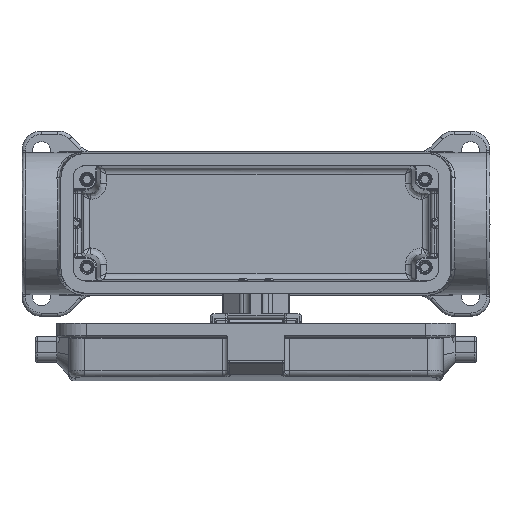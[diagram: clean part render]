
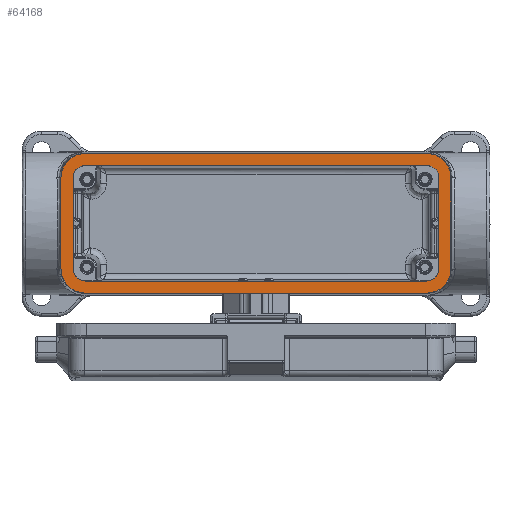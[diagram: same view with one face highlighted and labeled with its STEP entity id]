
A CAD part, top view. The second image highlights one B-rep face of the part: STEP entity #64168.
In plain terms, the highlighted planar face has unit normal (0, 0, 1) as drawn and (0, -1, 0) by its records, which use the part's own axes.
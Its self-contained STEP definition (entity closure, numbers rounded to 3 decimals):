
#183 = EDGE_CURVE ( 'NONE', #156512, #148041, #95126, .T. ) ;
#202 = DIRECTION ( 'NONE',  ( 1., 0., 0. ) ) ;
#906 = EDGE_CURVE ( 'NONE', #75258, #44165, #40749, .T. ) ;
#1974 = CIRCLE ( 'NONE', #88798, 3.8 ) ;
#2218 = EDGE_CURVE ( 'NONE', #120295, #131625, #54247, .T. ) ;
#4457 = CARTESIAN_POINT ( 'NONE',  ( 0., 0., 56.3 ) ) ;
#8426 = VERTEX_POINT ( 'NONE', #129763 ) ;
#8703 = CARTESIAN_POINT ( 'NONE',  ( -21.5, 0., -52.5 ) ) ;
#10973 = EDGE_CURVE ( 'NONE', #125377, #110784, #156448, .T. ) ;
#12017 = VECTOR ( 'NONE', #119150, 1000. ) ;
#13729 = CARTESIAN_POINT ( 'NONE',  ( 0., 0., 60. ) ) ;
#14308 = EDGE_CURVE ( 'NONE', #30638, #75258, #90349, .T. ) ;
#14633 = EDGE_CURVE ( 'NONE', #19278, #134264, #101817, .T. ) ;
#18103 = ORIENTED_EDGE ( 'NONE', *, *, #160325, .F. ) ;
#18369 = DIRECTION ( 'NONE',  ( 0., 1., 0. ) ) ;
#18784 = DIRECTION ( 'NONE',  ( 0., 0., -1. ) ) ;
#18934 = DIRECTION ( 'NONE',  ( -1., 0., 0. ) ) ;
#19278 = VERTEX_POINT ( 'NONE', #137281 ) ;
#21632 = FACE_OUTER_BOUND ( 'NONE', #132312, .T. ) ;
#21664 = CARTESIAN_POINT ( 'NONE',  ( -14., 0., 52.5 ) ) ;
#24899 = CARTESIAN_POINT ( 'NONE',  ( -14., 0., 52.5 ) ) ;
#25976 = DIRECTION ( 'NONE',  ( 0., 0., 1. ) ) ;
#27218 = EDGE_CURVE ( 'NONE', #134264, #8426, #33335, .T. ) ;
#29223 = DIRECTION ( 'NONE',  ( 0., -1., 0. ) ) ;
#30124 = CARTESIAN_POINT ( 'NONE',  ( -17.8, 0., 52.5 ) ) ;
#30290 = DIRECTION ( 'NONE',  ( 0., 1., 0. ) ) ;
#30638 = VERTEX_POINT ( 'NONE', #38322 ) ;
#31244 = DIRECTION ( 'NONE',  ( 0., 1., 0. ) ) ;
#32709 = EDGE_CURVE ( 'NONE', #148041, #19278, #112747, .T. ) ;
#33335 = LINE ( 'NONE', #142993, #12017 ) ;
#35138 = CARTESIAN_POINT ( 'NONE',  ( 17.8, 0., 52.5 ) ) ;
#35746 = AXIS2_PLACEMENT_3D ( 'NONE', #140945, #92197, #67786 ) ;
#37903 = DIRECTION ( 'NONE',  ( 0., -1., 0. ) ) ;
#38322 = CARTESIAN_POINT ( 'NONE',  ( -17.8, 0., -52.5 ) ) ;
#40735 = CARTESIAN_POINT ( 'NONE',  ( -17.8, 0., 0. ) ) ;
#40749 = LINE ( 'NONE', #134797, #46471 ) ;
#41138 = CARTESIAN_POINT ( 'NONE',  ( 14., 0., 52.5 ) ) ;
#41267 = ORIENTED_EDGE ( 'NONE', *, *, #32709, .F. ) ;
#43025 = VECTOR ( 'NONE', #202, 1000. ) ;
#43811 = AXIS2_PLACEMENT_3D ( 'NONE', #75775, #53014, #114236 ) ;
#44165 = VERTEX_POINT ( 'NONE', #159699 ) ;
#44780 = DIRECTION ( 'NONE',  ( 0., 0., 1. ) ) ;
#45277 = EDGE_CURVE ( 'NONE', #110784, #60331, #151196, .T. ) ;
#46073 = ORIENTED_EDGE ( 'NONE', *, *, #183, .F. ) ;
#46471 = VECTOR ( 'NONE', #101685, 1000. ) ;
#46842 = AXIS2_PLACEMENT_3D ( 'NONE', #128883, #18369, #103920 ) ;
#49354 = LINE ( 'NONE', #4457, #152182 ) ;
#50026 = VECTOR ( 'NONE', #102446, 1000. ) ;
#50716 = EDGE_CURVE ( 'NONE', #103781, #107513, #156678, .T. ) ;
#51363 = ORIENTED_EDGE ( 'NONE', *, *, #110713, .F. ) ;
#53014 = DIRECTION ( 'NONE',  ( 0., -1., 0. ) ) ;
#53958 = LINE ( 'NONE', #40735, #50026 ) ;
#54247 = LINE ( 'NONE', #72824, #112359 ) ;
#54632 = DIRECTION ( 'NONE',  ( 0., 0., 1. ) ) ;
#54888 = EDGE_LOOP ( 'NONE', ( #143997, #51363, #110974, #18103, #134304, #109813, #55850, #152489 ) ) ;
#55850 = ORIENTED_EDGE ( 'NONE', *, *, #79843, .F. ) ;
#60331 = VERTEX_POINT ( 'NONE', #8703 ) ;
#61985 = DIRECTION ( 'NONE',  ( 0., 0., 1. ) ) ;
#62146 = ORIENTED_EDGE ( 'NONE', *, *, #131574, .F. ) ;
#62348 = EDGE_CURVE ( 'NONE', #137589, #103781, #49354, .T. ) ;
#64168 = ADVANCED_FACE ( 'NONE', ( #126205, #21632 ), #153975, .F. ) ;
#66229 = CIRCLE ( 'NONE', #95510, 3.8 ) ;
#67786 = DIRECTION ( 'NONE',  ( 0., 0., 1. ) ) ;
#72824 = CARTESIAN_POINT ( 'NONE',  ( 17.8, 0., 0. ) ) ;
#75258 = VERTEX_POINT ( 'NONE', #122717 ) ;
#75775 = CARTESIAN_POINT ( 'NONE',  ( -14., 0., -52.5 ) ) ;
#79173 = DIRECTION ( 'NONE',  ( -1., 0., 0. ) ) ;
#79843 = EDGE_CURVE ( 'NONE', #107513, #30638, #53958, .T. ) ;
#80556 = DIRECTION ( 'NONE',  ( 0., -1., 0. ) ) ;
#80616 = DIRECTION ( 'NONE',  ( 0., 0., -1. ) ) ;
#80662 = CARTESIAN_POINT ( 'NONE',  ( 0., 0., -60. ) ) ;
#81755 = CARTESIAN_POINT ( 'NONE',  ( -21.5, 0., 0. ) ) ;
#81796 = DIRECTION ( 'NONE',  ( 0., 1., 0. ) ) ;
#83171 = AXIS2_PLACEMENT_3D ( 'NONE', #24899, #37903, #25976 ) ;
#88798 = AXIS2_PLACEMENT_3D ( 'NONE', #41138, #29223, #54632 ) ;
#89533 = AXIS2_PLACEMENT_3D ( 'NONE', #143335, #31244, #18784 ) ;
#89748 = ORIENTED_EDGE ( 'NONE', *, *, #27218, .F. ) ;
#90349 = CIRCLE ( 'NONE', #43811, 3.8 ) ;
#92045 = CARTESIAN_POINT ( 'NONE',  ( -14., 0., -60. ) ) ;
#92197 = DIRECTION ( 'NONE',  ( 0., 1., 0. ) ) ;
#92395 = CARTESIAN_POINT ( 'NONE',  ( 14., 0., -60. ) ) ;
#93084 = CARTESIAN_POINT ( 'NONE',  ( 14., 0., -52.5 ) ) ;
#94075 = CARTESIAN_POINT ( 'NONE',  ( 14., 0., -52.5 ) ) ;
#94224 = DIRECTION ( 'NONE',  ( 0., 0., 1. ) ) ;
#95126 = CIRCLE ( 'NONE', #109660, 7.5 ) ;
#95510 = AXIS2_PLACEMENT_3D ( 'NONE', #94075, #80556, #44780 ) ;
#96145 = ORIENTED_EDGE ( 'NONE', *, *, #127023, .F. ) ;
#96560 = CARTESIAN_POINT ( 'NONE',  ( 21.5, 0., 52.5 ) ) ;
#99450 = CARTESIAN_POINT ( 'NONE',  ( 14., 0., 56.3 ) ) ;
#101073 = CIRCLE ( 'NONE', #144401, 7.5 ) ;
#101347 = CARTESIAN_POINT ( 'NONE',  ( 17.8, 0., -52.5 ) ) ;
#101685 = DIRECTION ( 'NONE',  ( 1., 0., 0. ) ) ;
#101817 = CIRCLE ( 'NONE', #46842, 7.5 ) ;
#102446 = DIRECTION ( 'NONE',  ( 0., 0., -1. ) ) ;
#102607 = ORIENTED_EDGE ( 'NONE', *, *, #10973, .F. ) ;
#103781 = VERTEX_POINT ( 'NONE', #157397 ) ;
#103920 = DIRECTION ( 'NONE',  ( 0., 0., -1. ) ) ;
#107513 = VERTEX_POINT ( 'NONE', #30124 ) ;
#109660 = AXIS2_PLACEMENT_3D ( 'NONE', #21664, #81796, #145686 ) ;
#109813 = ORIENTED_EDGE ( 'NONE', *, *, #14308, .F. ) ;
#109858 = ORIENTED_EDGE ( 'NONE', *, *, #45277, .F. ) ;
#110713 = EDGE_CURVE ( 'NONE', #131625, #137589, #1974, .T. ) ;
#110784 = VERTEX_POINT ( 'NONE', #92045 ) ;
#110974 = ORIENTED_EDGE ( 'NONE', *, *, #2218, .F. ) ;
#112359 = VECTOR ( 'NONE', #61985, 1000. ) ;
#112747 = LINE ( 'NONE', #13729, #43025 ) ;
#114236 = DIRECTION ( 'NONE',  ( 0., 0., 1. ) ) ;
#119150 = DIRECTION ( 'NONE',  ( 0., 0., -1. ) ) ;
#120295 = VERTEX_POINT ( 'NONE', #101347 ) ;
#122717 = CARTESIAN_POINT ( 'NONE',  ( -14., 0., -56.3 ) ) ;
#124083 = CARTESIAN_POINT ( 'NONE',  ( -21.5, 0., 52.5 ) ) ;
#125377 = VERTEX_POINT ( 'NONE', #92395 ) ;
#126205 = FACE_BOUND ( 'NONE', #54888, .T. ) ;
#127023 = EDGE_CURVE ( 'NONE', #8426, #125377, #101073, .T. ) ;
#127343 = VECTOR ( 'NONE', #18934, 1000. ) ;
#128883 = CARTESIAN_POINT ( 'NONE',  ( 14., 0., 52.5 ) ) ;
#129763 = CARTESIAN_POINT ( 'NONE',  ( 21.5, 0., -52.5 ) ) ;
#131574 = EDGE_CURVE ( 'NONE', #60331, #156512, #157283, .T. ) ;
#131625 = VERTEX_POINT ( 'NONE', #35138 ) ;
#132312 = EDGE_LOOP ( 'NONE', ( #109858, #102607, #96145, #89748, #159485, #41267, #46073, #62146 ) ) ;
#134264 = VERTEX_POINT ( 'NONE', #96560 ) ;
#134304 = ORIENTED_EDGE ( 'NONE', *, *, #906, .F. ) ;
#134797 = CARTESIAN_POINT ( 'NONE',  ( 0., 0., -56.3 ) ) ;
#137281 = CARTESIAN_POINT ( 'NONE',  ( 14., 0., 60. ) ) ;
#137589 = VERTEX_POINT ( 'NONE', #99450 ) ;
#139415 = CARTESIAN_POINT ( 'NONE',  ( -14., 0., 60. ) ) ;
#140945 = CARTESIAN_POINT ( 'NONE',  ( 0., 0., 0. ) ) ;
#142993 = CARTESIAN_POINT ( 'NONE',  ( 21.5, 0., 0. ) ) ;
#143335 = CARTESIAN_POINT ( 'NONE',  ( -14., 0., -52.5 ) ) ;
#143997 = ORIENTED_EDGE ( 'NONE', *, *, #62348, .F. ) ;
#144401 = AXIS2_PLACEMENT_3D ( 'NONE', #93084, #30290, #80616 ) ;
#145686 = DIRECTION ( 'NONE',  ( 0., 0., -1. ) ) ;
#148041 = VERTEX_POINT ( 'NONE', #139415 ) ;
#151196 = CIRCLE ( 'NONE', #89533, 7.5 ) ;
#152182 = VECTOR ( 'NONE', #79173, 1000. ) ;
#152489 = ORIENTED_EDGE ( 'NONE', *, *, #50716, .F. ) ;
#153433 = VECTOR ( 'NONE', #94224, 1000. ) ;
#153975 = PLANE ( 'NONE',  #35746 ) ;
#156448 = LINE ( 'NONE', #80662, #127343 ) ;
#156512 = VERTEX_POINT ( 'NONE', #124083 ) ;
#156678 = CIRCLE ( 'NONE', #83171, 3.8 ) ;
#157283 = LINE ( 'NONE', #81755, #153433 ) ;
#157397 = CARTESIAN_POINT ( 'NONE',  ( -14., 0., 56.3 ) ) ;
#159485 = ORIENTED_EDGE ( 'NONE', *, *, #14633, .F. ) ;
#159699 = CARTESIAN_POINT ( 'NONE',  ( 14., 0., -56.3 ) ) ;
#160325 = EDGE_CURVE ( 'NONE', #44165, #120295, #66229, .T. ) ;
